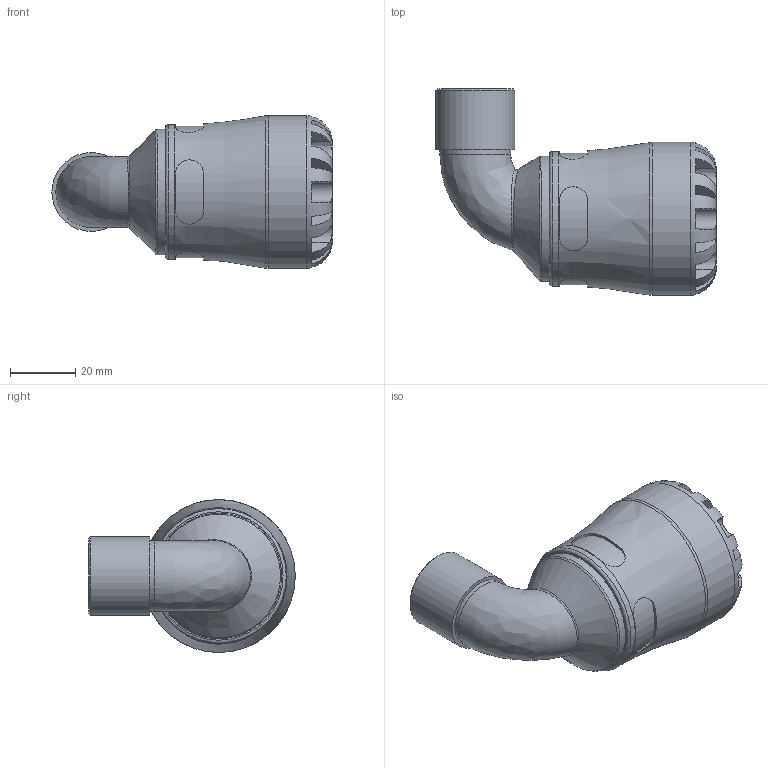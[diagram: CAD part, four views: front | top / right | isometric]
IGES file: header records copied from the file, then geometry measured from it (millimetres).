
Global section: file name: 101500025005_191500025005.ipt; native system: Autodesk Inventor 2015; preprocessor: unknown; author: KIM; date: 20170730.115212; units: millimetre
Bounding box: 86.11 x 63.5 x 47 mm (x, y, z)
Volume: 65986.6 mm3; surface area: 21284 mm2
Topology: 1 solids, 1 shells, 110 faces, 278 edges, 177 vertices
Faces by surface type: plane 62, revolution 26, cylinder 17, bspline 4, cone 1
Full cylindrical faces by diameter (mm): 21.798 x1, 24.22 x1, 38.54 x1, 41.36 x1, 47 x1
